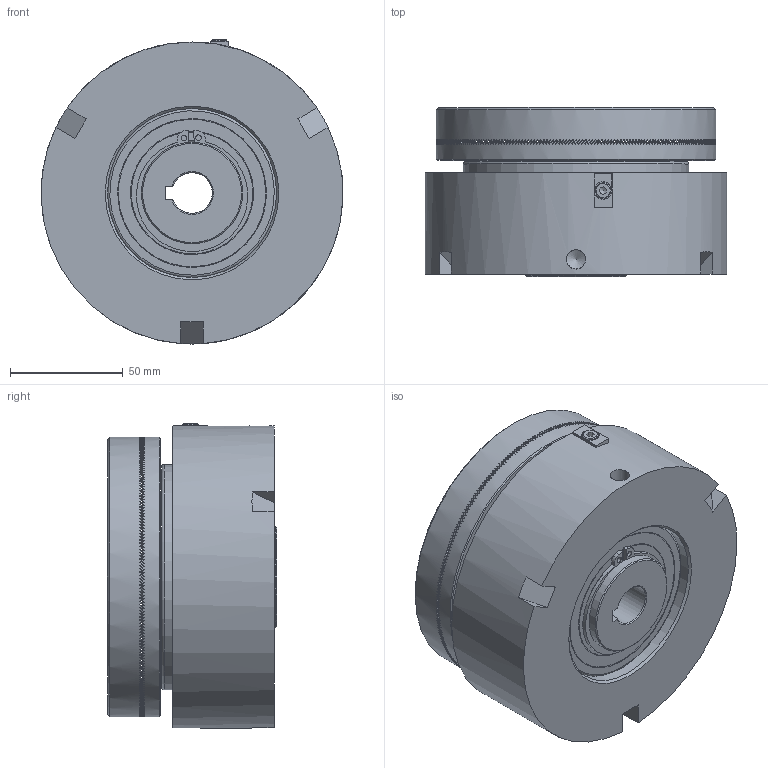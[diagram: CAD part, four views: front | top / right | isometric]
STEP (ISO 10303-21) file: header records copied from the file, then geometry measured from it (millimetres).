
FILE_DESCRIPTION(/* description */ (''),/* implementation_level */ '2;1');
FILE_NAME(/* name */ 'T:\INVENTOR\DISEGNI\03_Friz_Oleod_Pneum_Cil_Stat\03_25 DP\03_25_03_01 DP-03\03.25.03.01 DP03_Sostituto_1.stp',/* time_stamp */ '2020-03-12T13:57:28+01:00',/* author */ ('w.sartori'),/* organization */ (''),/* preprocessor_version */ 'ST-DEVELOPER v16.13',/* originating_system */ 'Autodesk Inventor 2018',/* authorisation */ '');
FILE_SCHEMA (('AUTOMOTIVE_DESIGN { 1 0 10303 214 3 1 1 }'));
Length unit declared in the file: millimetre
Products named in the file (1): 03.25.03.01 DP03_Sostituto_1
Bounding box: 133.95 x 75 x 134.9 mm (x, y, z)
Surface area: 98927.1 mm2 (no closed solid volume)
Topology: 0 solids, 16 shells, 234 faces, 4334 edges, 4117 vertices
Faces by surface type: plane 197, cylinder 23, cone 10, torus 4
Full cylindrical faces by diameter (mm): 2.5 x4, 4.917 x3, 8.566 x1, 45 x2, 54.6 x1, 75 x2, 100 x1, 124 x2, 134 x1
Entity records: 38437 total; most frequent: CARTESIAN_POINT 8718, DIRECTION 6555, ORIENTED_EDGE 4573, EDGE_CURVE 4295, VERTEX_POINT 4106, LINE 2485, VECTOR 2485, AXIS2_PLACEMENT_3D 2035
